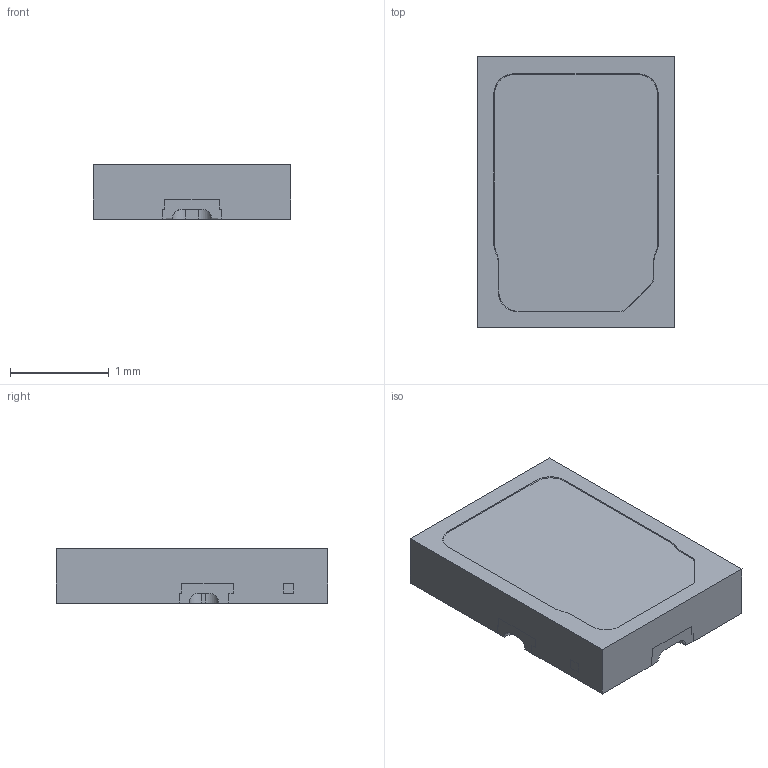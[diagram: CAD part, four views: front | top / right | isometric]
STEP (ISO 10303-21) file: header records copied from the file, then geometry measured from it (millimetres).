
FILE_DESCRIPTION (( 'STEP AP214' ), '1' );
FILE_NAME ('STL-2720.STEP', '2020-03-19T09:30:45', ( '' ), ( '' ), 'SwSTEP 2.0', 'SolidWorks 2018', '' );
FILE_SCHEMA (( 'AUTOMOTIVE_DESIGN' ));
Length unit declared in the file: centimetre
Products named in the file (1): STL-2720
Bounding box: 2 x 2.75 x 0.55 mm (x, y, z)
Volume: 3 mm3; surface area: 16.5 mm2
Topology: 1 solids, 1 shells, 62 faces, 229 edges, 172 vertices
Faces by surface type: plane 33, cylinder 19, cone 8, bspline 2
Entity records: 3313 total; most frequent: CARTESIAN_POINT 696, ORIENTED_EDGE 458, DIRECTION 349, EDGE_CURVE 229, VERTEX_POINT 172, LINE 131, VECTOR 131, AXIS2_PLACEMENT_3D 109
